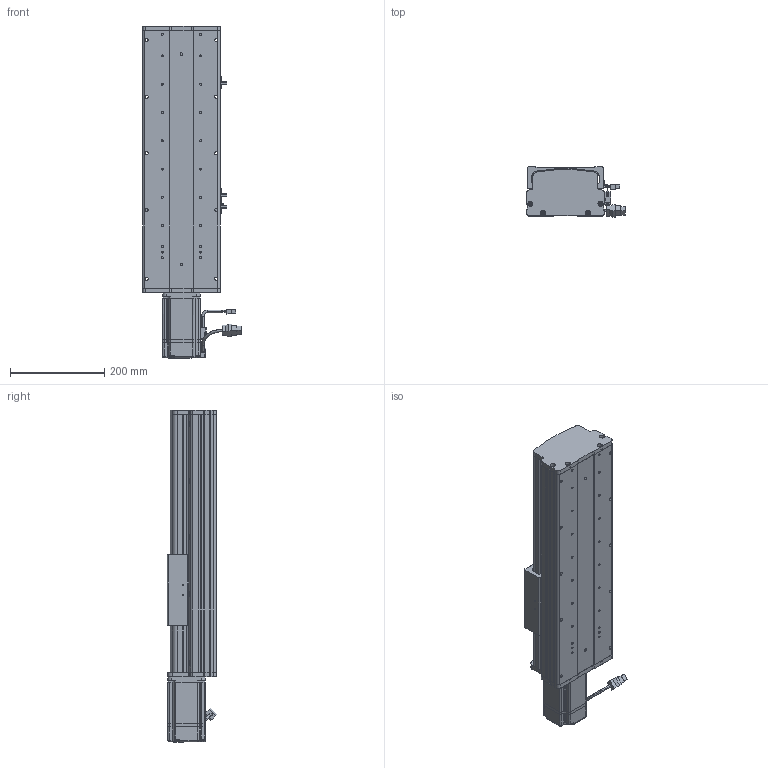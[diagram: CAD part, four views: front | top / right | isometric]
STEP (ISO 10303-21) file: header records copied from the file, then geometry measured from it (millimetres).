
FILE_DESCRIPTION (( 'STEP AP214' ), '1' );
FILE_NAME ('KSD165S-S250-MN-CM .STEP', '2017-08-07T08:04:57', ( '微软用户' ), ( '微软中国' ), 'SwSTEP 2.0', 'SolidWorks 2014', '' );
FILE_SCHEMA (( 'AUTOMOTIVE_DESIGN' ));
Length unit declared in the file: millimetre
Products named in the file (12): KSD165模组-防尘盖1-250行程-直连不带电机座; KSD165模组底板-250行程-直连不带电机座; KSD165模组-直连不带电机座电机连接板; KSD165耀郪-佪裝-滅袉菜-3 -; ECMA-CX0807ES; C44ㄜ1912WP; 覜茼え68遵圉猾敕; U倰嫖萇假蚾璃; U倰嫖萇EEㄜSX672; KSD165耀郪-綴傷啣1; KSD165模组-丝杆滑动座-最新版; KSD165S-S250-MN-CM 
Assembly tree (15 placements, depth 2):
  KSD165S-S250-MN-CM 
    KSD165模组-丝杆滑动座-最新版
    KSD165耀郪-綴傷啣1
    U倰嫖萇EEㄜSX672  x3
    U倰嫖萇假蚾璃  x3
    覜茼え68遵圉猾敕
    C44ㄜ1912WP
    ECMA-CX0807ES
    KSD165耀郪-佪裝-滅袉菜-3 -
    KSD165模组-直连不带电机座电机连接板
    KSD165模组底板-250行程-直连不带电机座
    KSD165模组-防尘盖1-250行程-直连不带电机座
Bounding box: 209.77 x 105.74 x 704.3 mm (x, y, z)
Volume: 4478850.6 mm3; surface area: 957814.4 mm2
Topology: 16 solids, 16 shells, 1565 faces, 4298 edges, 2760 vertices
Faces by surface type: cylinder 741, plane 655, cone 106, bspline 63
Entity records: 59189 total; most frequent: CARTESIAN_POINT 17448, ORIENTED_EDGE 7272, DIRECTION 6680, EDGE_CURVE 3636, AXIS2_PLACEMENT_3D 2445, VERTEX_POINT 2352, LINE 1790, VECTOR 1790
